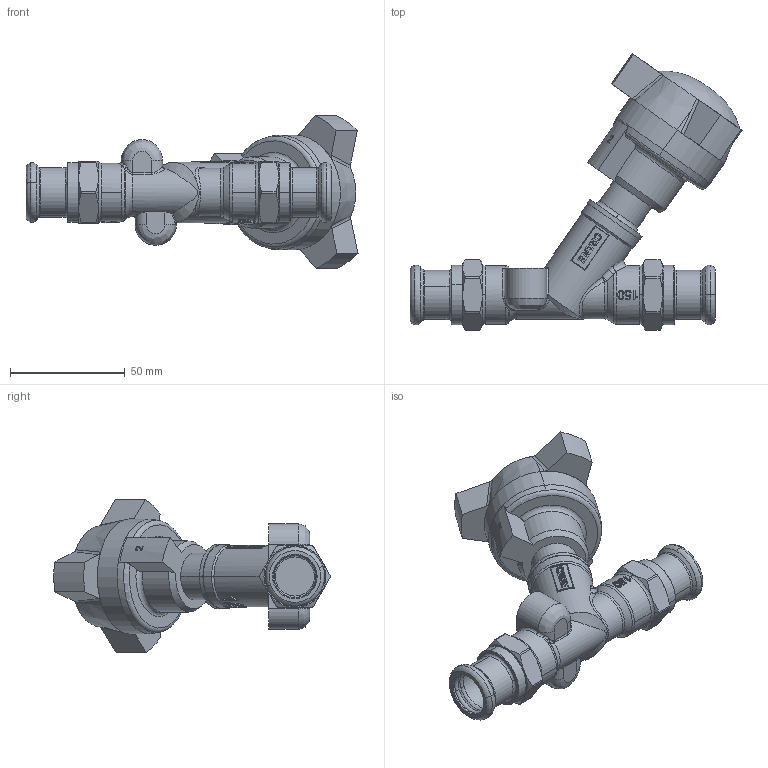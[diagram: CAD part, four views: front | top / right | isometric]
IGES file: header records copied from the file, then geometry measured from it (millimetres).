
Global section: file name: No Iges File Name specified; native system: AutoDesk Inventor R12.0; preprocessor: AutoDesk Inventor Iges Exporter R12.0; date: 20110823.160252; units: millimetre
Bounding box: 144.59 x 120.36 x 66.44 mm (x, y, z)
Volume: 163921.6 mm3; surface area: 33194.5 mm2
Topology: 1 solids, 3 shells, 809 faces, 2187 edges, 1438 vertices
Faces by surface type: bspline 352, plane 301, cylinder 73, cone 38, revolution 26, torus 19
